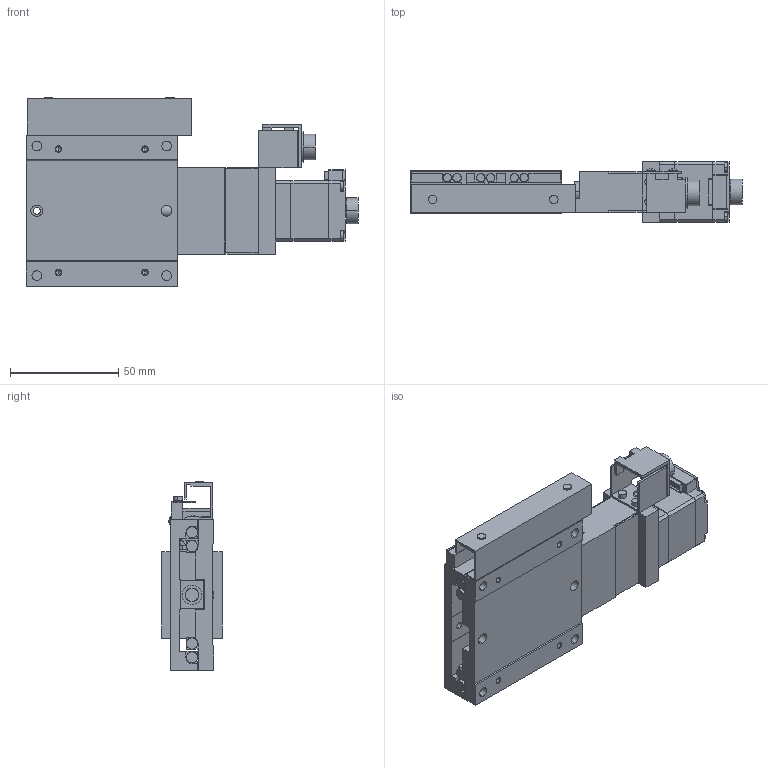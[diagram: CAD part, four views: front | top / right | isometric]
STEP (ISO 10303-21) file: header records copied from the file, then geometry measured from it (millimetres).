
FILE_DESCRIPTION(('STEP AP203'),'1');
FILE_NAME('C:/3D-Trans/3D_PG715M-L□-E+240116.step','2024-02-26T08:09:09',(' '),(' '),'Spatial InterOp 3D',' ',' ');
FILE_SCHEMA(('CONFIG_CONTROL_DESIGN'));
Length unit declared in the file: millimetre
Products named in the file (6): 1; 2; 3; 4; 5; 6
Bounding box: 153.5 x 28 x 87.4 mm (x, y, z)
Volume: 129652.9 mm3; surface area: 59757.3 mm2
Topology: 6 solids, 6 shells, 660 faces, 1694 edges, 1071 vertices
Faces by surface type: plane 382, cylinder 198, cone 76, sphere 4
Entity records: 20124 total; most frequent: DIRECTION 3528, CARTESIAN_POINT 3407, ORIENTED_EDGE 3340, EDGE_CURVE 1670, AXIS2_PLACEMENT_3D 1192, LINE 1144, VECTOR 1144, VERTEX_POINT 1071
